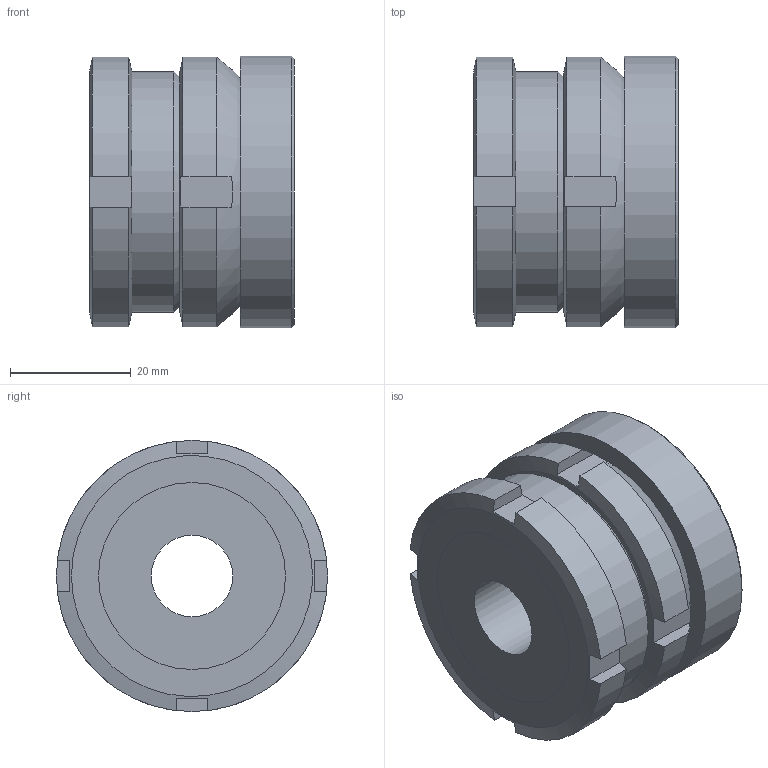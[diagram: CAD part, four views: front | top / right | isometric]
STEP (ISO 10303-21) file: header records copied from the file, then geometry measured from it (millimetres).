
FILE_DESCRIPTION( ( 'STEP AP203' ), '1' );
FILE_NAME( 'C:/Temp/Ganter_Step_05_03_2020/data/3_2/gn350_2/gn_350_2_st/Levelling set GN 350.2-45-13,5-34-ST (0-0).stp', '2020-03-13T05:27:53', ( 'License CC BY-ND 4.0' ), ( 'CADENAS' ), ' ', 'PARTsolutions', ' ' );
FILE_SCHEMA( ( 'CONFIG_CONTROL_DESIGN' ) );
Length unit declared in the file: millimetre
Products named in the file (4): Levelling set GN 350.2-45-13,5-34-ST (0-0); _Levelling set GN 350.2-45-13,5-34-ST-G; _Levelling set GN 350.2-45-13,5-34-ST-K; _Levelling set GN 350.2-45-13,5-34-ST-P(0)
Assembly tree (3 placements, depth 2):
  Levelling set GN 350.2-45-13,5-34-ST (0-0)
    _Levelling set GN 350.2-45-13,5-34-ST-G
    _Levelling set GN 350.2-45-13,5-34-ST-K
    _Levelling set GN 350.2-45-13,5-34-ST-P(0)
Bounding box: 34 x 45 x 45 mm (x, y, z)
Volume: 43668.9 mm3; surface area: 16719.9 mm2
Topology: 3 solids, 3 shells, 62 faces, 149 edges, 99 vertices
Faces by surface type: plane 36, cylinder 19, cone 5, sphere 2
Full cylindrical faces by diameter (mm): 13.5 x1, 22 x1, 24.492 x1, 25.5 x1, 28.376 x1, 30 x2, 31 x2, 40 x1, 45 x1
Entity records: 1925 total; most frequent: CARTESIAN_POINT 462, DIRECTION 276, ORIENTED_EDGE 248, EDGE_CURVE 124, AXIS2_PLACEMENT_3D 122, EDGE_LOOP 92, VERTEX_POINT 92, FACE_OUTER_BOUND 75
